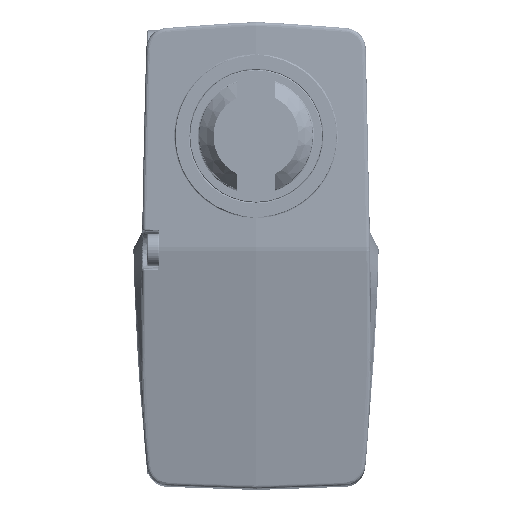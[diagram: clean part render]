
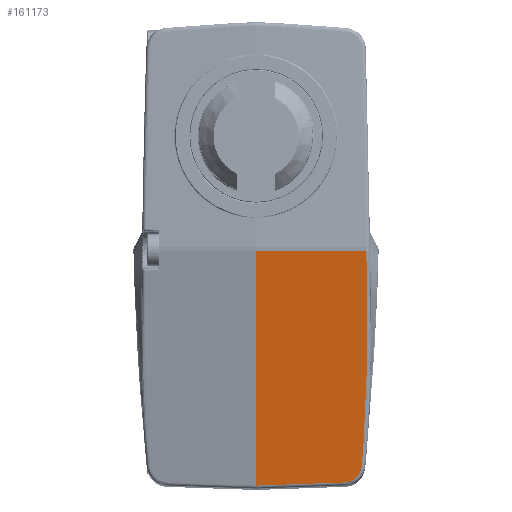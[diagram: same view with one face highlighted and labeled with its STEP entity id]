
A CAD part, top view. The second image highlights one B-rep face of the part: STEP entity #161173.
In plain terms, the highlighted planar face has unit normal (0.035, -0.173, 0.984).
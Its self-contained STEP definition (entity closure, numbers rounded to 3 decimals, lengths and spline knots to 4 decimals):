
#7303 = CARTESIAN_POINT ( 'NONE',  ( -4.3429, 0.2201, 3.2765 ) ) ;
#9757 = CARTESIAN_POINT ( 'NONE',  ( -4.3342, -0.9289, 3.0736 ) ) ;
#15682 = CARTESIAN_POINT ( 'NONE',  ( -5.2614, -1.7319, 2.9649 ) ) ;
#29523 = CARTESIAN_POINT ( 'NONE',  ( -4.5235, -1.7061, 2.9433 ) ) ;
#31751 = FACE_OUTER_BOUND ( 'NONE', #41910, .T. ) ;
#32540 = CARTESIAN_POINT ( 'NONE',  ( -4.3699, -1.4407, 2.9846 ) ) ;
#36829 = CARTESIAN_POINT ( 'NONE',  ( -4.3353, -0.6723, 3.1189 ) ) ;
#40372 = PLANE ( 'NONE',  #249502 ) ;
#41910 = EDGE_LOOP ( 'NONE', ( #244384, #49787, #98042, #288179, #116061, #170649, #96389 ) ) ;
#49787 = ORIENTED_EDGE ( 'NONE', *, *, #248008, .T. ) ;
#62343 = LINE ( 'NONE', #295585, #219531 ) ;
#64320 = EDGE_CURVE ( 'NONE', #152136, #168770, #62343, .T. ) ;
#65227 = VERTEX_POINT ( 'NONE', #110031 ) ;
#67834 = CARTESIAN_POINT ( 'NONE',  ( -4.5228, -1.7061, 2.9433 ) ) ;
#85106 = CARTESIAN_POINT ( 'NONE',  ( -4.339, -0.0773, 3.2239 ) ) ;
#93437 =( BOUNDED_CURVE ( )  B_SPLINE_CURVE ( 3, ( #135797, #185361, #85106, #7303 ),
 .UNSPECIFIED., .F., .F. ) 
 B_SPLINE_CURVE_WITH_KNOTS ( ( 4, 4 ),
 ( 4.518, 4.5268 ),
 .UNSPECIFIED. ) 
 CURVE ( )  GEOMETRIC_REPRESENTATION_ITEM ( )  RATIONAL_B_SPLINE_CURVE ( ( 1., 1., 1., 1. ) ) 
 REPRESENTATION_ITEM ( '' )  );
#96389 = ORIENTED_EDGE ( 'NONE', *, *, #268845, .T. ) ;
#98042 = ORIENTED_EDGE ( 'NONE', *, *, #64320, .T. ) ;
#104865 = CARTESIAN_POINT ( 'NONE',  ( -4.3429, 0.2201, 3.2765 ) ) ;
#106873 = LINE ( 'NONE', #29523, #239465 ) ;
#110031 = CARTESIAN_POINT ( 'NONE',  ( -4.3353, -0.6723, 3.1189 ) ) ;
#113603 = EDGE_CURVE ( 'NONE', #168770, #125800, #106873, .T. ) ;
#114609 = EDGE_CURVE ( 'NONE', #125800, #126100, #253049, .T. ) ;
#116061 = ORIENTED_EDGE ( 'NONE', *, *, #114609, .T. ) ;
#116930 =( BOUNDED_CURVE ( )  B_SPLINE_CURVE ( 3, ( #191182, #137156, #9757, #36829 ),
 .UNSPECIFIED., .F., .F. ) 
 B_SPLINE_CURVE_WITH_KNOTS ( ( 4, 4 ),
 ( 4.4199, 4.518 ),
 .UNSPECIFIED. ) 
 CURVE ( )  GEOMETRIC_REPRESENTATION_ITEM ( )  RATIONAL_B_SPLINE_CURVE ( ( 1., 0.999, 0.999, 1. ) ) 
 REPRESENTATION_ITEM ( '' )  );
#122383 = CARTESIAN_POINT ( 'NONE',  ( -4.3829, -1.575, 2.9614 ) ) ;
#125197 = LINE ( 'NONE', #214892, #311068 ) ;
#125800 = VERTEX_POINT ( 'NONE', #67834 ) ;
#126100 = VERTEX_POINT ( 'NONE', #189000 ) ;
#134434 = CARTESIAN_POINT ( 'NONE',  ( -5.2614, 0.2173, 3.3086 ) ) ;
#135106 = CARTESIAN_POINT ( 'NONE',  ( -4.3741, -1.4855, 2.9769 ) ) ;
#135797 = CARTESIAN_POINT ( 'NONE',  ( -4.3353, -0.6723, 3.1189 ) ) ;
#137156 = CARTESIAN_POINT ( 'NONE',  ( -4.3458, -1.1852, 3.0288 ) ) ;
#138509 = DIRECTION ( 'NONE',  ( 0.035, -0.174, 0.984 ) ) ;
#141058 = DIRECTION ( 'NONE',  ( 0., -0.985, -0.174 ) ) ;
#144134 =( BOUNDED_CURVE ( )  B_SPLINE_CURVE ( 3, ( #144730, #272951, #135106, #32540 ),
 .UNSPECIFIED., .F., .F. ) 
 B_SPLINE_CURVE_WITH_KNOTS ( ( 4, 4 ),
 ( 4.4142, 4.4199 ),
 .UNSPECIFIED. ) 
 CURVE ( )  GEOMETRIC_REPRESENTATION_ITEM ( )  RATIONAL_B_SPLINE_CURVE ( ( 1., 1., 1., 1. ) ) 
 REPRESENTATION_ITEM ( '' )  );
#144730 = CARTESIAN_POINT ( 'NONE',  ( -4.3829, -1.575, 2.9614 ) ) ;
#152136 = VERTEX_POINT ( 'NONE', #134434 ) ;
#161173 = ADVANCED_FACE ( 'NONE', ( #31751 ), #40372, .T. ) ;
#164381 = DIRECTION ( 'NONE',  ( 0., -0.985, -0.174 ) ) ;
#168770 = VERTEX_POINT ( 'NONE', #15682 ) ;
#170649 = ORIENTED_EDGE ( 'NONE', *, *, #238619, .T. ) ;
#180593 = DIRECTION ( 'NONE',  ( 0.999, 0.035, -0.029 ) ) ;
#182891 = VERTEX_POINT ( 'NONE', #104865 ) ;
#185361 = CARTESIAN_POINT ( 'NONE',  ( -4.3365, -0.3748, 3.1714 ) ) ;
#189000 = CARTESIAN_POINT ( 'NONE',  ( -4.3829, -1.575, 2.9614 ) ) ;
#191182 = CARTESIAN_POINT ( 'NONE',  ( -4.3699, -1.4407, 2.9846 ) ) ;
#192880 = VERTEX_POINT ( 'NONE', #314936 ) ;
#214892 = CARTESIAN_POINT ( 'NONE',  ( -5.2615, 0.2173, 3.3086 ) ) ;
#216474 = EDGE_CURVE ( 'NONE', #65227, #182891, #93437, .T. ) ;
#219531 = VECTOR ( 'NONE', #141058, 39.3701 ) ;
#238619 = EDGE_CURVE ( 'NONE', #126100, #192880, #144134, .T. ) ;
#239465 = VECTOR ( 'NONE', #180593, 39.3701 ) ;
#240844 = DIRECTION ( 'NONE',  ( -0.999, -0.003, 0.035 ) ) ;
#244384 = ORIENTED_EDGE ( 'NONE', *, *, #216474, .T. ) ;
#248008 = EDGE_CURVE ( 'NONE', #182891, #152136, #125197, .T. ) ;
#249502 = AXIS2_PLACEMENT_3D ( 'NONE', #271516, #138509, #164381 ) ;
#253049 =( BOUNDED_CURVE ( )  B_SPLINE_CURVE ( 3, ( #301776, #327785, #276986, #122383 ),
 .UNSPECIFIED., .F., .F. ) 
 B_SPLINE_CURVE_WITH_KNOTS ( ( 4, 4 ),
 ( 2.978, 4.4142 ),
 .UNSPECIFIED. ) 
 CURVE ( )  GEOMETRIC_REPRESENTATION_ITEM ( )  RATIONAL_B_SPLINE_CURVE ( ( 1., 0.835, 0.835, 1. ) ) 
 REPRESENTATION_ITEM ( '' )  );
#268845 = EDGE_CURVE ( 'NONE', #192880, #65227, #116930, .T. ) ;
#271516 = CARTESIAN_POINT ( 'NONE',  ( -5.2614, 0.2343, 3.3116 ) ) ;
#272951 = CARTESIAN_POINT ( 'NONE',  ( -4.3784, -1.5302, 2.9691 ) ) ;
#276986 = CARTESIAN_POINT ( 'NONE',  ( -4.3905, -1.6511, 2.9483 ) ) ;
#288179 = ORIENTED_EDGE ( 'NONE', *, *, #113603, .T. ) ;
#295585 = CARTESIAN_POINT ( 'NONE',  ( -5.2614, 0.2343, 3.3116 ) ) ;
#301776 = CARTESIAN_POINT ( 'NONE',  ( -4.5228, -1.7061, 2.9433 ) ) ;
#311068 = VECTOR ( 'NONE', #240844, 39.3701 ) ;
#314936 = CARTESIAN_POINT ( 'NONE',  ( -4.3699, -1.4407, 2.9846 ) ) ;
#327785 = CARTESIAN_POINT ( 'NONE',  ( -4.4463, -1.7034, 2.941 ) ) ;
